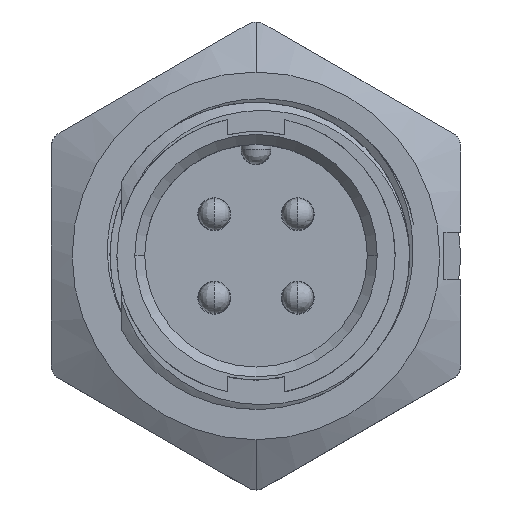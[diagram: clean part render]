
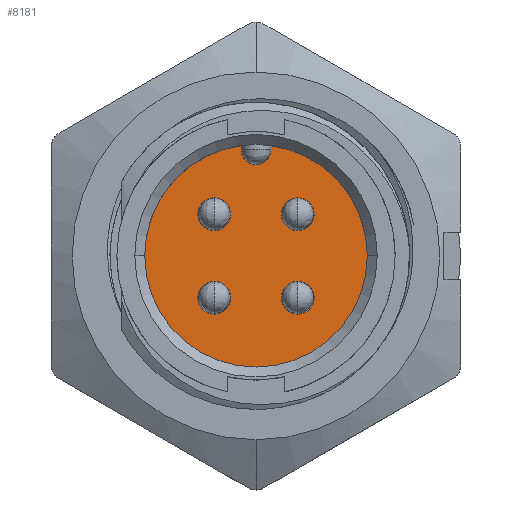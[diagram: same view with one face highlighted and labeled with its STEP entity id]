
A CAD part, top view. The second image highlights one B-rep face of the part: STEP entity #8181.
In plain terms, the highlighted planar face has unit normal (0, 0, 1).
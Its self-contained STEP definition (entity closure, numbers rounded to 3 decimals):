
#8 = ORIENTED_EDGE ( 'NONE', *, *, #7946, .T. ) ;
#370 = EDGE_CURVE ( 'NONE', #12068, #10979, #8999, .T. ) ;
#478 = CARTESIAN_POINT ( 'NONE',  ( -2.1, -2.1, -9. ) ) ;
#490 = CIRCLE ( 'NONE', #6784, 0.825 ) ;
#504 = AXIS2_PLACEMENT_3D ( 'NONE', #11629, #11563, #3472 ) ;
#508 = CARTESIAN_POINT ( 'NONE',  ( 0.75, 5.35, -9. ) ) ;
#557 = VERTEX_POINT ( 'NONE', #7272 ) ;
#609 = CIRCLE ( 'NONE', #7320, 5.6 ) ;
#767 = EDGE_LOOP ( 'NONE', ( #995, #10220 ) ) ;
#995 = ORIENTED_EDGE ( 'NONE', *, *, #10237, .T. ) ;
#1037 = AXIS2_PLACEMENT_3D ( 'NONE', #10917, #2834, #8891 ) ;
#1049 = CARTESIAN_POINT ( 'NONE',  ( 0.75, 5.55, -9. ) ) ;
#1202 = FACE_BOUND ( 'NONE', #4797, .T. ) ;
#1443 = CARTESIAN_POINT ( 'NONE',  ( -2.1, 2.1, -9. ) ) ;
#1527 = CIRCLE ( 'NONE', #6348, 0.825 ) ;
#1598 = DIRECTION ( 'NONE',  ( 0., 0., -1. ) ) ;
#1791 = DIRECTION ( 'NONE',  ( 1., 0., 0. ) ) ;
#1891 = EDGE_LOOP ( 'NONE', ( #2093, #2190 ) ) ;
#2093 = ORIENTED_EDGE ( 'NONE', *, *, #6159, .T. ) ;
#2116 = DIRECTION ( 'NONE',  ( 1., 0., 0. ) ) ;
#2190 = ORIENTED_EDGE ( 'NONE', *, *, #8915, .T. ) ;
#2245 = FACE_BOUND ( 'NONE', #3475, .T. ) ;
#2308 = DIRECTION ( 'NONE',  ( 0., 0., -1. ) ) ;
#2509 = VERTEX_POINT ( 'NONE', #5143 ) ;
#2556 = CARTESIAN_POINT ( 'NONE',  ( 1.275, -2.1, -9. ) ) ;
#2608 = VERTEX_POINT ( 'NONE', #1049 ) ;
#2620 = EDGE_CURVE ( 'NONE', #12681, #2509, #10316, .T. ) ;
#2823 = CARTESIAN_POINT ( 'NONE',  ( 0.75, -0.028, -9. ) ) ;
#2834 = DIRECTION ( 'NONE',  ( 0., 0., -1. ) ) ;
#2965 = VERTEX_POINT ( 'NONE', #508 ) ;
#3253 = VECTOR ( 'NONE', #6048, 1000. ) ;
#3332 = VECTOR ( 'NONE', #6223, 1000. ) ;
#3355 = CARTESIAN_POINT ( 'NONE',  ( -2.1, 2.1, -9. ) ) ;
#3437 = CIRCLE ( 'NONE', #504, 5.6 ) ;
#3472 = DIRECTION ( 'NONE',  ( 1., 0., 0. ) ) ;
#3475 = EDGE_LOOP ( 'NONE', ( #11692, #3795 ) ) ;
#3517 = CARTESIAN_POINT ( 'NONE',  ( 0., 0., -9. ) ) ;
#3613 = AXIS2_PLACEMENT_3D ( 'NONE', #5380, #12358, #7354 ) ;
#3701 = CARTESIAN_POINT ( 'NONE',  ( 0., 5.35, -9. ) ) ;
#3745 = CARTESIAN_POINT ( 'NONE',  ( 2.1, 2.1, -9. ) ) ;
#3795 = ORIENTED_EDGE ( 'NONE', *, *, #8224, .T. ) ;
#3883 = AXIS2_PLACEMENT_3D ( 'NONE', #10129, #2308, #7168 ) ;
#3910 = CARTESIAN_POINT ( 'NONE',  ( -5.6, 0., -9. ) ) ;
#4167 = DIRECTION ( 'NONE',  ( 0., 0., 1. ) ) ;
#4481 = DIRECTION ( 'NONE',  ( 1., 0., 0. ) ) ;
#4649 = AXIS2_PLACEMENT_3D ( 'NONE', #6711, #10657, #1791 ) ;
#4664 = CARTESIAN_POINT ( 'NONE',  ( 2.925, 2.1, -9. ) ) ;
#4797 = EDGE_LOOP ( 'NONE', ( #8, #12468 ) ) ;
#5067 = FACE_OUTER_BOUND ( 'NONE', #7543, .T. ) ;
#5119 = AXIS2_PLACEMENT_3D ( 'NONE', #7063, #4167, #6138 ) ;
#5143 = CARTESIAN_POINT ( 'NONE',  ( -1.275, -2.1, -9. ) ) ;
#5148 = VERTEX_POINT ( 'NONE', #4664 ) ;
#5190 = DIRECTION ( 'NONE',  ( 1., 0., 0. ) ) ;
#5198 = CARTESIAN_POINT ( 'NONE',  ( 0., -0.028, -9. ) ) ;
#5330 = ORIENTED_EDGE ( 'NONE', *, *, #8147, .T. ) ;
#5366 = EDGE_CURVE ( 'NONE', #8553, #6680, #10966, .T. ) ;
#5380 = CARTESIAN_POINT ( 'NONE',  ( 2.1, -2.1, -9. ) ) ;
#5422 = EDGE_CURVE ( 'NONE', #6170, #12029, #8029, .T. ) ;
#5554 = CARTESIAN_POINT ( 'NONE',  ( -1.275, 2.1, -9. ) ) ;
#5784 = DIRECTION ( 'NONE',  ( 1., 0., 0. ) ) ;
#6048 = DIRECTION ( 'NONE',  ( 0., -1., 0. ) ) ;
#6123 = FACE_BOUND ( 'NONE', #1891, .T. ) ;
#6138 = DIRECTION ( 'NONE',  ( 1., 0., 0. ) ) ;
#6159 = EDGE_CURVE ( 'NONE', #5148, #12471, #1527, .T. ) ;
#6160 = CIRCLE ( 'NONE', #6571, 0.75 ) ;
#6170 = VERTEX_POINT ( 'NONE', #2556 ) ;
#6223 = DIRECTION ( 'NONE',  ( 0., 1., 0. ) ) ;
#6302 = DIRECTION ( 'NONE',  ( 0., 0., -1. ) ) ;
#6348 = AXIS2_PLACEMENT_3D ( 'NONE', #3745, #9591, #5784 ) ;
#6571 = AXIS2_PLACEMENT_3D ( 'NONE', #3701, #9740, #12704 ) ;
#6680 = VERTEX_POINT ( 'NONE', #12935 ) ;
#6697 = CIRCLE ( 'NONE', #1037, 0.825 ) ;
#6711 = CARTESIAN_POINT ( 'NONE',  ( -2.1, -2.1, -9. ) ) ;
#6784 = AXIS2_PLACEMENT_3D ( 'NONE', #478, #1598, #4481 ) ;
#6963 = LINE ( 'NONE', #2823, #3253 ) ;
#6980 = FACE_BOUND ( 'NONE', #767, .T. ) ;
#7063 = CARTESIAN_POINT ( 'NONE',  ( 0., 0., -9. ) ) ;
#7168 = DIRECTION ( 'NONE',  ( 1., 0., 0. ) ) ;
#7190 = CARTESIAN_POINT ( 'NONE',  ( 1.275, 2.1, -9. ) ) ;
#7272 = CARTESIAN_POINT ( 'NONE',  ( 5.6, 0., -9. ) ) ;
#7320 = AXIS2_PLACEMENT_3D ( 'NONE', #3517, #8645, #7587 ) ;
#7354 = DIRECTION ( 'NONE',  ( 1., 0., 0. ) ) ;
#7362 = DIRECTION ( 'NONE',  ( 0., 0., -1. ) ) ;
#7543 = EDGE_LOOP ( 'NONE', ( #11239, #5330, #9621, #11369, #8088, #10537 ) ) ;
#7587 = DIRECTION ( 'NONE',  ( 1., 0., 0. ) ) ;
#7946 = EDGE_CURVE ( 'NONE', #2509, #12681, #490, .T. ) ;
#8029 = CIRCLE ( 'NONE', #3613, 0.825 ) ;
#8088 = ORIENTED_EDGE ( 'NONE', *, *, #10715, .T. ) ;
#8133 = CARTESIAN_POINT ( 'NONE',  ( -0.75, -0.028, -9. ) ) ;
#8147 = EDGE_CURVE ( 'NONE', #2965, #12068, #6160, .T. ) ;
#8181 = ADVANCED_FACE ( 'NONE', ( #6980, #1202, #6123, #2245, #5067 ), #10259, .T. ) ;
#8199 = CARTESIAN_POINT ( 'NONE',  ( -0.75, 5.35, -9. ) ) ;
#8224 = EDGE_CURVE ( 'NONE', #6680, #8553, #12159, .T. ) ;
#8237 = AXIS2_PLACEMENT_3D ( 'NONE', #1443, #6302, #5190 ) ;
#8553 = VERTEX_POINT ( 'NONE', #5554 ) ;
#8645 = DIRECTION ( 'NONE',  ( 0., 0., 1. ) ) ;
#8654 = EDGE_CURVE ( 'NONE', #557, #2608, #609, .T. ) ;
#8756 = VERTEX_POINT ( 'NONE', #3910 ) ;
#8891 = DIRECTION ( 'NONE',  ( 1., 0., 0. ) ) ;
#8915 = EDGE_CURVE ( 'NONE', #12471, #5148, #6697, .T. ) ;
#8997 = CARTESIAN_POINT ( 'NONE',  ( 2.925, -2.1, -9. ) ) ;
#8999 = LINE ( 'NONE', #8133, #3332 ) ;
#9016 = AXIS2_PLACEMENT_3D ( 'NONE', #3355, #7362, #11380 ) ;
#9087 = DIRECTION ( 'NONE',  ( 0., 0., 1. ) ) ;
#9591 = DIRECTION ( 'NONE',  ( 0., 0., -1. ) ) ;
#9621 = ORIENTED_EDGE ( 'NONE', *, *, #370, .T. ) ;
#9634 = AXIS2_PLACEMENT_3D ( 'NONE', #5198, #9087, #2116 ) ;
#9675 = CARTESIAN_POINT ( 'NONE',  ( -0.75, 5.55, -9. ) ) ;
#9740 = DIRECTION ( 'NONE',  ( 0., 0., -1. ) ) ;
#9978 = CARTESIAN_POINT ( 'NONE',  ( -2.925, -2.1, -9. ) ) ;
#10129 = CARTESIAN_POINT ( 'NONE',  ( 2.1, -2.1, -9. ) ) ;
#10220 = ORIENTED_EDGE ( 'NONE', *, *, #5422, .T. ) ;
#10237 = EDGE_CURVE ( 'NONE', #12029, #6170, #12072, .T. ) ;
#10259 = PLANE ( 'NONE',  #9634 ) ;
#10316 = CIRCLE ( 'NONE', #4649, 0.825 ) ;
#10465 = EDGE_CURVE ( 'NONE', #2608, #2965, #6963, .T. ) ;
#10537 = ORIENTED_EDGE ( 'NONE', *, *, #8654, .T. ) ;
#10657 = DIRECTION ( 'NONE',  ( 0., 0., -1. ) ) ;
#10715 = EDGE_CURVE ( 'NONE', #8756, #557, #12054, .T. ) ;
#10917 = CARTESIAN_POINT ( 'NONE',  ( 2.1, 2.1, -9. ) ) ;
#10966 = CIRCLE ( 'NONE', #8237, 0.825 ) ;
#10979 = VERTEX_POINT ( 'NONE', #9675 ) ;
#11239 = ORIENTED_EDGE ( 'NONE', *, *, #10465, .T. ) ;
#11369 = ORIENTED_EDGE ( 'NONE', *, *, #11457, .T. ) ;
#11380 = DIRECTION ( 'NONE',  ( 1., 0., 0. ) ) ;
#11457 = EDGE_CURVE ( 'NONE', #10979, #8756, #3437, .T. ) ;
#11563 = DIRECTION ( 'NONE',  ( 0., 0., 1. ) ) ;
#11629 = CARTESIAN_POINT ( 'NONE',  ( 0., 0., -9. ) ) ;
#11692 = ORIENTED_EDGE ( 'NONE', *, *, #5366, .T. ) ;
#12029 = VERTEX_POINT ( 'NONE', #8997 ) ;
#12054 = CIRCLE ( 'NONE', #5119, 5.6 ) ;
#12068 = VERTEX_POINT ( 'NONE', #8199 ) ;
#12072 = CIRCLE ( 'NONE', #3883, 0.825 ) ;
#12159 = CIRCLE ( 'NONE', #9016, 0.825 ) ;
#12358 = DIRECTION ( 'NONE',  ( 0., 0., -1. ) ) ;
#12468 = ORIENTED_EDGE ( 'NONE', *, *, #2620, .T. ) ;
#12471 = VERTEX_POINT ( 'NONE', #7190 ) ;
#12681 = VERTEX_POINT ( 'NONE', #9978 ) ;
#12704 = DIRECTION ( 'NONE',  ( 1., 0., 0. ) ) ;
#12935 = CARTESIAN_POINT ( 'NONE',  ( -2.925, 2.1, -9. ) ) ;
